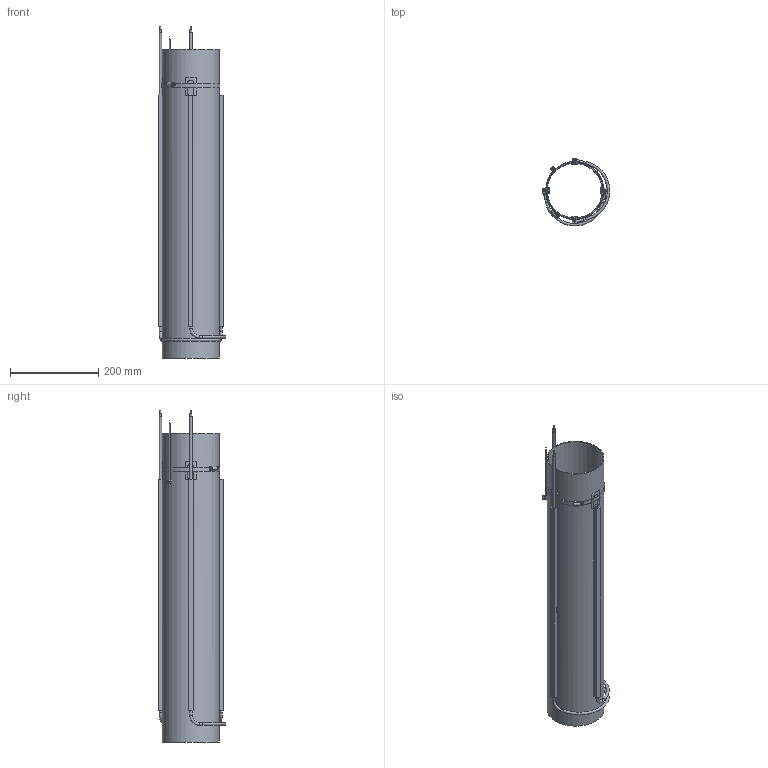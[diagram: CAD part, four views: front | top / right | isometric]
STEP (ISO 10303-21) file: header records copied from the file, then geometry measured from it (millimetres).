
FILE_DESCRIPTION(/* description */ (''),/* implementation_level */ '2;1');
FILE_NAME(/* name */ 'CONVEYOSTAT129.0_3D',/* time_stamp */ '2015-03-05T14:53:49+01:00',/* author */ (''),/* organization */ (''),/* preprocessor_version */ 'ST-DEVELOPER v15.7',/* originating_system */ 'HiCAD 2014 1902.2 Build 487',/* authorisation */ '');
FILE_SCHEMA (('AUTOMOTIVE_DESIGN { 1 0 10303 214 1 1 1 1 }'));
Length unit declared in the file: millimetre
Products named in the file (5): Root; O.D.129_Assembly; Tube_Conveyostat; 1x; MB13SF_2
Assembly tree (4 placements, depth 5):
  Root
    O.D.129_Assembly
      Tube_Conveyostat
        1x
          MB13SF_2
Bounding box: 153.17 x 153.17 x 753 mm (x, y, z)
Volume: 814048 mm3; surface area: 742877.3 mm2
Topology: 11 solids, 11 shells, 415 faces, 1148 edges, 751 vertices
Faces by surface type: plane 256, cylinder 124, cone 29, torus 6
Full cylindrical faces by diameter (mm): 1 x2, 1.42 x16, 2.4 x1, 2.5 x2, 3.141 x2, 4 x3, 4.019 x2, 4.6 x4, 4.8 x4, 5.3 x2, 6 x10, 125 x1, 129 x1
Entity records: 40314 total; most frequent: CARTESIAN_POINT 21820, DIRECTION 2123, PRESENTATION_STYLE_ASSIGNMENT 2056, OVER_RIDING_STYLED_ITEM 2045, DRAUGHTING_PRE_DEFINED_CURVE_FONT 2030, CURVE_STYLE 2030, ORIENTED_EDGE 2030, EDGE_CURVE 1015
